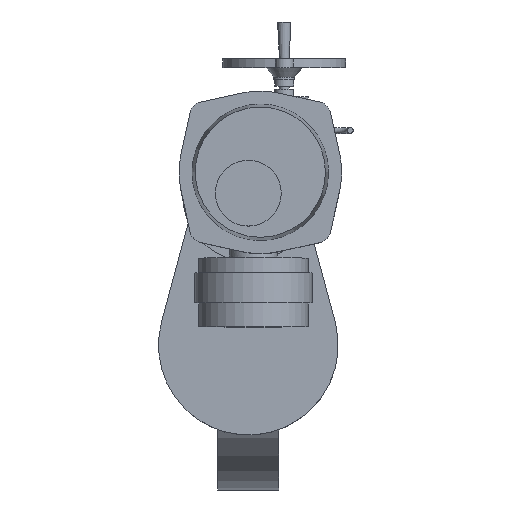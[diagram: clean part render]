
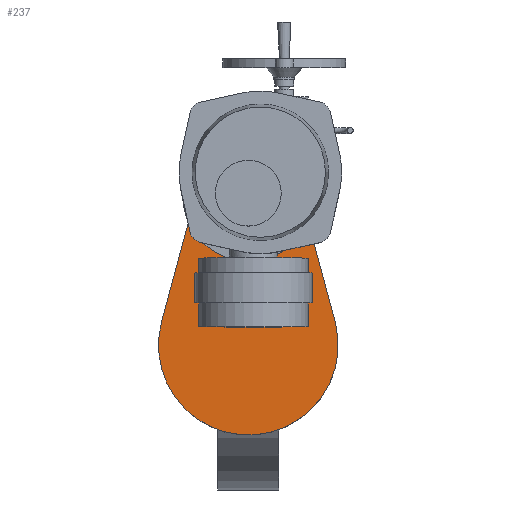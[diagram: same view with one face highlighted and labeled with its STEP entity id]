
A CAD part, top view. The second image highlights one B-rep face of the part: STEP entity #237.
In plain terms, the highlighted planar face has unit normal (0, 0, 1).
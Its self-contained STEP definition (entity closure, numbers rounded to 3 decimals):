
#237=ADVANCED_FACE('',(#8243),#8245,.F.);
#8243=FACE_BOUND('',#8244,.T.);
#8244=EDGE_LOOP('',(#14578,#14579,#14580,#14581,#14582));
#8245=PLANE('',#8246);
#8246=AXIS2_PLACEMENT_3D('',#8247,#8248,#8249);
#8247=CARTESIAN_POINT('',(20.,288.,481.));
#8248=DIRECTION('',(0.,0.,-1.));
#8249=DIRECTION('',(0.,1.,0.));
#14578=ORIENTED_EDGE('',*,*,#19392,.T.);
#14579=ORIENTED_EDGE('',*,*,#19393,.T.);
#14580=ORIENTED_EDGE('',*,*,#19394,.F.);
#14581=ORIENTED_EDGE('',*,*,#19366,.F.);
#14582=ORIENTED_EDGE('',*,*,#19395,.F.);
#19366=EDGE_CURVE('',#21810,#21811,#21812,.T.);
#19392=EDGE_CURVE('',#21859,#21860,#21861,.F.);
#19393=EDGE_CURVE('',#21860,#21862,#21863,.F.);
#19394=EDGE_CURVE('',#21811,#21862,#21864,.T.);
#19395=EDGE_CURVE('',#21859,#21810,#21865,.T.);
#21810=VERTEX_POINT('',#25953);
#21811=VERTEX_POINT('',#25954);
#21812=CIRCLE('',#25955,150.);
#21859=VERTEX_POINT('',#26078);
#21860=VERTEX_POINT('',#26079);
#21861=CIRCLE('',#26080,85.);
#21862=VERTEX_POINT('',#26084);
#21863=CIRCLE('',#26085,85.);
#21864=LINE('',#26089,#26090);
#21865=LINE('',#26092,#26093);
#25953=CARTESIAN_POINT('',(144.841,39.,481.));
#25954=CARTESIAN_POINT('',(-144.841,39.,481.));
#25955=AXIS2_PLACEMENT_3D('',#25956,#25957,#25958);
#25956=CARTESIAN_POINT('',(0.,0.,481.));
#25957=DIRECTION('',(0.,0.,-1.));
#25958=DIRECTION('',(0.966,0.26,0.));
#26078=CARTESIAN_POINT('',(82.077,272.1,481.));
#26079=CARTESIAN_POINT('',(0.,165.,481.));
#26080=AXIS2_PLACEMENT_3D('',#26081,#26082,#26083);
#26081=CARTESIAN_POINT('',(0.,250.,481.));
#26082=DIRECTION('',(0.,0.,1.));
#26083=DIRECTION('',(0.,-1.,0.));
#26084=CARTESIAN_POINT('',(-82.077,272.1,481.));
#26085=AXIS2_PLACEMENT_3D('',#26086,#26087,#26088);
#26086=CARTESIAN_POINT('',(0.,250.,481.));
#26087=DIRECTION('',(0.,0.,1.));
#26088=DIRECTION('',(-0.966,0.26,0.));
#26089=CARTESIAN_POINT('',(-144.841,39.,481.));
#26090=VECTOR('',#26091,1.);
#26091=DIRECTION('',(0.26,0.966,0.));
#26092=CARTESIAN_POINT('',(82.077,272.1,481.));
#26093=VECTOR('',#26094,1.);
#26094=DIRECTION('',(0.26,-0.966,0.));
